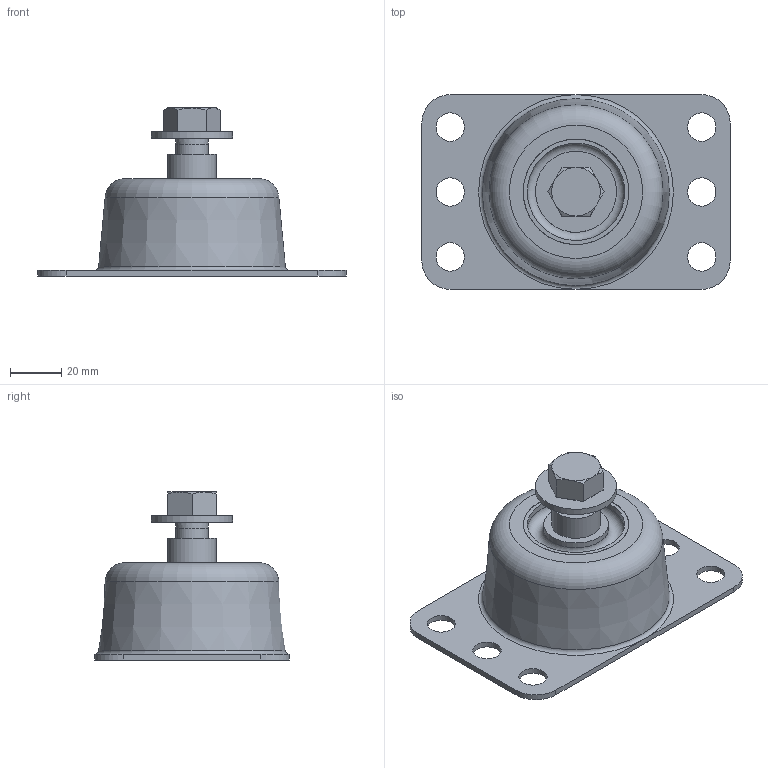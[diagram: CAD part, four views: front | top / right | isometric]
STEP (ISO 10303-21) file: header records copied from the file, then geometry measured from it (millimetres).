
FILE_DESCRIPTION(/* description */ (''),/* implementation_level */ '2;1');
FILE_NAME(/* name */ '\\Mleuckthor2\cad-proe_solids\WEBSITE FILES 05.22.13\STEP\RAA, RBA, RCA, RDA\RBA.stp',/* time_stamp */ '2016-01-15T16:22:06-05:00',/* author */ ('rramoutar'),/* organization */ ('Mason Industries Inc.'),/* preprocessor_version */ 'ST-DEVELOPER v15.6',/* originating_system */ 'Autodesk Inventor 2015',/* authorisation */ '');
FILE_SCHEMA (('CONFIG_CONTROL_DESIGN'));
Length unit declared in the file: inch
Products named in the file (1): A-21176 RBA MOUNT
Bounding box: 120.65 x 76.2 x 65.76 mm (x, y, z)
Volume: 140301.7 mm3; surface area: 68838.3 mm2
Topology: 6 solids, 6 shells, 97 faces, 202 edges, 124 vertices
Faces by surface type: plane 39, cylinder 26, cone 17, torus 15
Full cylindrical faces by diameter (mm): 11.112 x6, 12.7 x2, 13.487 x1, 19.05 x3, 19.844 x1, 25.4 x3, 31.75 x1, 38.1 x1, 41.275 x2, 47.625 x1, 60.325 x1
Entity records: 2415 total; most frequent: DIRECTION 422, CARTESIAN_POINT 380, ORIENTED_EDGE 288, AXIS2_PLACEMENT_3D 192, EDGE_LOOP 174, EDGE_CURVE 144, VERTEX_POINT 114, STYLED_ITEM 103
